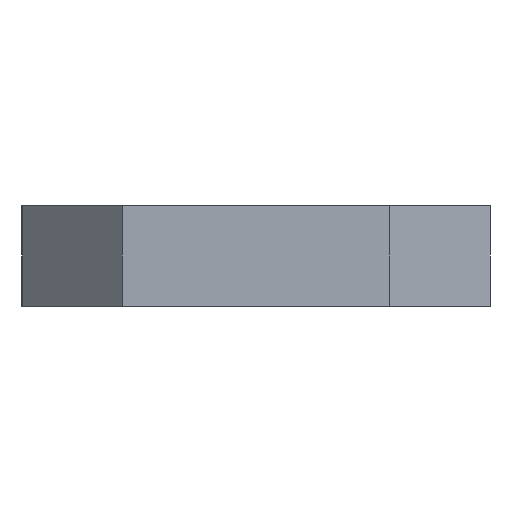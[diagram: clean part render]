
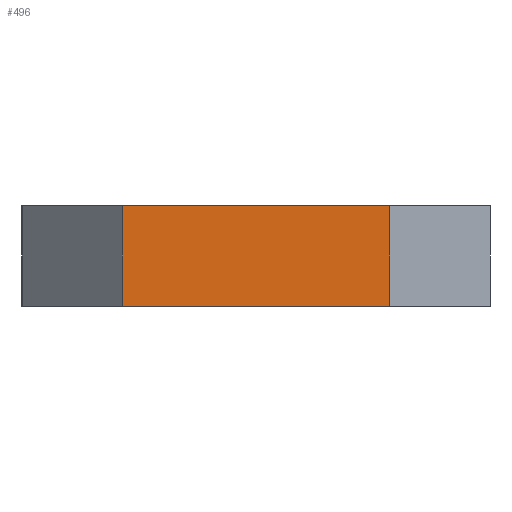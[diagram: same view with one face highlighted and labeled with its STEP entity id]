
A CAD part, front view. The second image highlights one B-rep face of the part: STEP entity #496.
In plain terms, the highlighted planar face has unit normal (0, -1, 0).
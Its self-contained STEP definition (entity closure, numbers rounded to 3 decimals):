
#20 = CARTESIAN_POINT ( 'NONE',  ( -7., -503.75, 0. ) ) ;
#22 = DIRECTION ( 'NONE',  ( 1., 0., 0. ) ) ;
#41 = DIRECTION ( 'NONE',  ( 0., -1., 0. ) ) ;
#69 = LINE ( 'NONE', #20, #514 ) ;
#77 = VECTOR ( 'NONE', #282, 1000. ) ;
#126 = VERTEX_POINT ( 'NONE', #137 ) ;
#137 = CARTESIAN_POINT ( 'NONE',  ( -4., -503.75, 0. ) ) ;
#147 = VERTEX_POINT ( 'NONE', #468 ) ;
#180 = PLANE ( 'NONE',  #197 ) ;
#194 = EDGE_CURVE ( 'NONE', #126, #147, #69, .T. ) ;
#197 = AXIS2_PLACEMENT_3D ( 'NONE', #319, #41, #265 ) ;
#234 = FACE_OUTER_BOUND ( 'NONE', #334, .T. ) ;
#243 = CARTESIAN_POINT ( 'NONE',  ( -7., -503.75, -3. ) ) ;
#244 = VECTOR ( 'NONE', #260, 1000. ) ;
#255 = CARTESIAN_POINT ( 'NONE',  ( 4., -503.75, -3. ) ) ;
#260 = DIRECTION ( 'NONE',  ( 1., 0., 0. ) ) ;
#265 = DIRECTION ( 'NONE',  ( 0., 0., -1. ) ) ;
#274 = VECTOR ( 'NONE', #361, 1000. ) ;
#279 = VERTEX_POINT ( 'NONE', #255 ) ;
#282 = DIRECTION ( 'NONE',  ( 0., 0., -1. ) ) ;
#283 = EDGE_CURVE ( 'NONE', #367, #279, #521, .T. ) ;
#289 = CARTESIAN_POINT ( 'NONE',  ( -4., -503.75, -3. ) ) ;
#314 = EDGE_CURVE ( 'NONE', #126, #367, #437, .T. ) ;
#316 = ORIENTED_EDGE ( 'NONE', *, *, #314, .T. ) ;
#319 = CARTESIAN_POINT ( 'NONE',  ( -7., -503.75, -3. ) ) ;
#325 = CARTESIAN_POINT ( 'NONE',  ( 4., -503.75, -3. ) ) ;
#333 = EDGE_CURVE ( 'NONE', #279, #147, #415, .T. ) ;
#334 = EDGE_LOOP ( 'NONE', ( #396, #316, #390, #508 ) ) ;
#361 = DIRECTION ( 'NONE',  ( 0., 0., 1. ) ) ;
#367 = VERTEX_POINT ( 'NONE', #424 ) ;
#390 = ORIENTED_EDGE ( 'NONE', *, *, #283, .T. ) ;
#396 = ORIENTED_EDGE ( 'NONE', *, *, #194, .F. ) ;
#415 = LINE ( 'NONE', #325, #274 ) ;
#424 = CARTESIAN_POINT ( 'NONE',  ( -4., -503.75, -3. ) ) ;
#437 = LINE ( 'NONE', #289, #77 ) ;
#468 = CARTESIAN_POINT ( 'NONE',  ( 4., -503.75, 0. ) ) ;
#496 = ADVANCED_FACE ( 'NONE', ( #234 ), #180, .T. ) ;
#508 = ORIENTED_EDGE ( 'NONE', *, *, #333, .T. ) ;
#514 = VECTOR ( 'NONE', #22, 1000. ) ;
#521 = LINE ( 'NONE', #243, #244 ) ;
